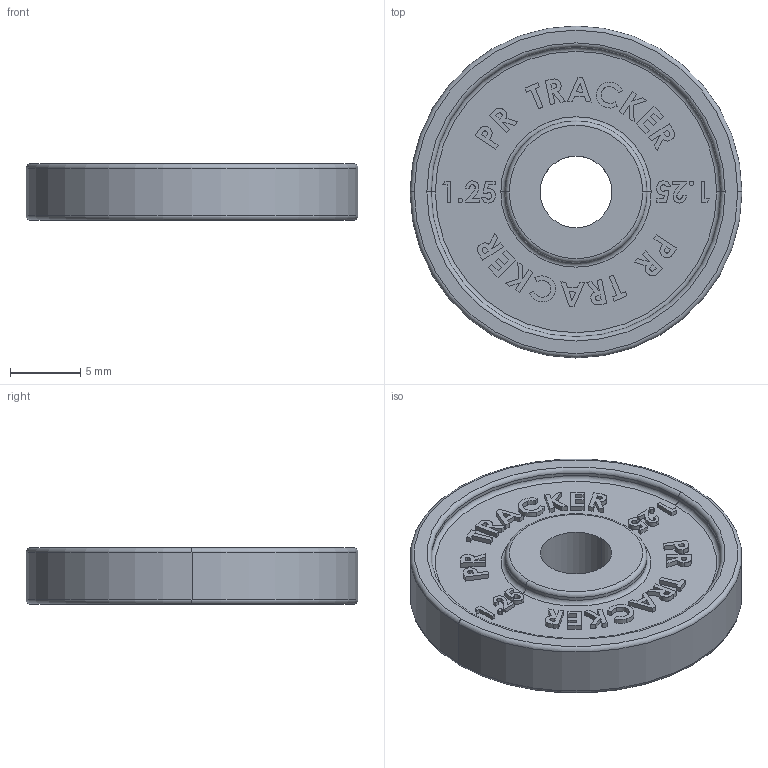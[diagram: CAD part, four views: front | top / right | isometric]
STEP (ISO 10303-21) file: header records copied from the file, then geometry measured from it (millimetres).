
FILE_DESCRIPTION (( 'STEP AP214' ), '1' );
FILE_NAME ('1,25.STEP', '2024-06-19T17:10:09', ( '' ), ( '' ), 'SwSTEP 2.0', 'SolidWorks 2022', '' );
FILE_SCHEMA (( 'AUTOMOTIVE_DESIGN' ));
Length unit declared in the file: millimetre
Products named in the file (1): 1,25
Bounding box: 23.62 x 23.62 x 4 mm (x, y, z)
Volume: 1257 mm3; surface area: 1402.6 mm2
Topology: 1 solids, 1 shells, 702 faces, 1852 edges, 1228 vertices
Faces by surface type: plane 494, bspline 176, torus 20, cylinder 12
Entity records: 31442 total; most frequent: CARTESIAN_POINT 15159, ORIENTED_EDGE 3704, DIRECTION 2618, EDGE_CURVE 1852, LINE 1436, VECTOR 1436, VERTEX_POINT 1228, EDGE_LOOP 780
